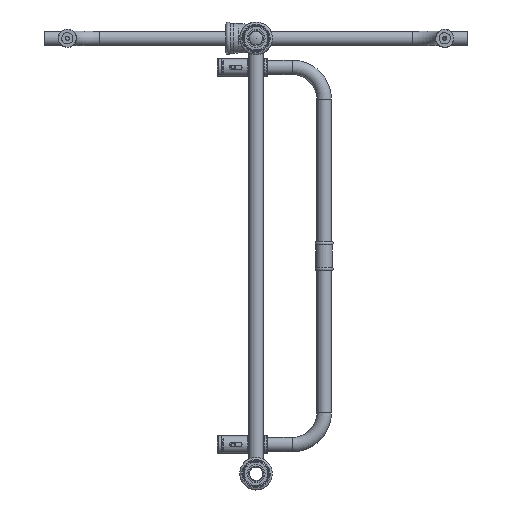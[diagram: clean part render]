
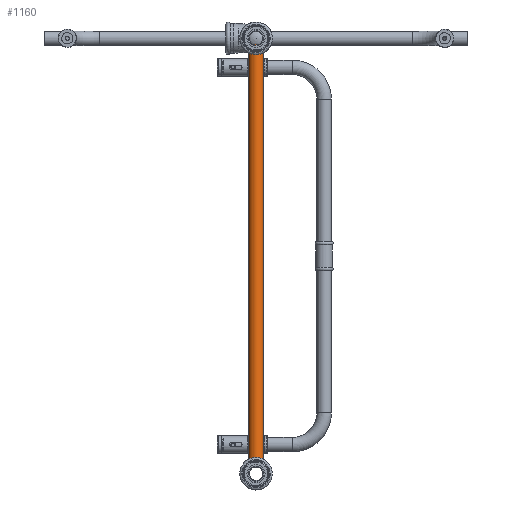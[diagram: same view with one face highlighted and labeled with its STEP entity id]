
A CAD part, front view. The second image highlights one B-rep face of the part: STEP entity #1160.
In plain terms, the highlighted cylindrical face has radius 10 mm (diameter 20 mm), a full revolution.
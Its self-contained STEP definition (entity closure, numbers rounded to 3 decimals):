
#1160 = ADVANCED_FACE( '', ( #2493, #2494 ), #2495, .T. );
#2493 = FACE_OUTER_BOUND( '', #4337, .T. );
#2494 = FACE_OUTER_BOUND( '', #4338, .T. );
#2495 = CYLINDRICAL_SURFACE( '', #4339, 10. );
#4337 = EDGE_LOOP( '', ( #6414 ) );
#4338 = EDGE_LOOP( '', ( #6415 ) );
#4339 = AXIS2_PLACEMENT_3D( '', #6416, #6417, #6418 );
#6414 = ORIENTED_EDGE( '', *, *, #8156, .T. );
#6415 = ORIENTED_EDGE( '', *, *, #7941, .F. );
#6416 = CARTESIAN_POINT( '', ( 292., 0., 0. ) );
#6417 = DIRECTION( '', ( 1., 0., 0. ) );
#6418 = DIRECTION( '', ( 0., 0., 1. ) );
#7941 = EDGE_CURVE( '', #8903, #8903, #8904, .T. );
#8156 = EDGE_CURVE( '', #9245, #9245, #9246, .T. );
#8903 = VERTEX_POINT( '', #14185 );
#8904 = CIRCLE( '', #14186, 10. );
#9245 = VERTEX_POINT( '', #16499 );
#9246 = CIRCLE( '', #16500, 10. );
#14185 = CARTESIAN_POINT( '', ( -292., 10., 0. ) );
#14186 = AXIS2_PLACEMENT_3D( '', #18684, #18685, #18686 );
#16499 = CARTESIAN_POINT( '', ( 292., 10., 0. ) );
#16500 = AXIS2_PLACEMENT_3D( '', #18995, #18996, #18997 );
#18684 = CARTESIAN_POINT( '', ( -292., 0., 0. ) );
#18685 = DIRECTION( '', ( -1., 0., 0. ) );
#18686 = DIRECTION( '', ( 0., 1., 0. ) );
#18995 = CARTESIAN_POINT( '', ( 292., 0., 0. ) );
#18996 = DIRECTION( '', ( -1., 0., 0. ) );
#18997 = DIRECTION( '', ( 0., 1., 0. ) );
